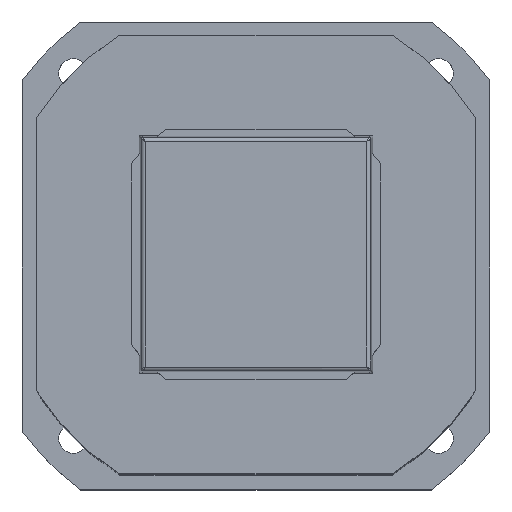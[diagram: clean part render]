
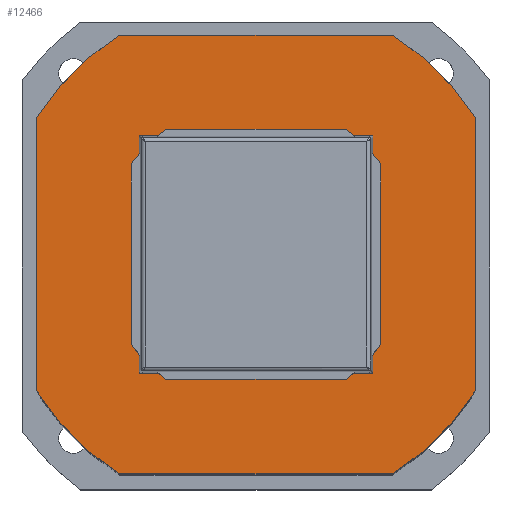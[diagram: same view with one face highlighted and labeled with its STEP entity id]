
A CAD part, top view. The second image highlights one B-rep face of the part: STEP entity #12466.
In plain terms, the highlighted planar face has unit normal (0, 0, 1).
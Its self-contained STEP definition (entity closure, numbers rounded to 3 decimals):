
#3436=CIRCLE('',#13706,132.5);
#3438=CIRCLE('',#13710,132.5);
#3440=CIRCLE('',#13714,132.5);
#3442=CIRCLE('',#13720,132.5);
#4076=VERTEX_POINT('',#17099);
#4077=VERTEX_POINT('',#17101);
#4079=VERTEX_POINT('',#17107);
#4081=VERTEX_POINT('',#17113);
#4083=VERTEX_POINT('',#17119);
#4085=VERTEX_POINT('',#17125);
#4087=VERTEX_POINT('',#17131);
#4089=VERTEX_POINT('',#17137);
#5164=LINE('',#17108,#14995);
#5168=LINE('',#17120,#14999);
#5172=LINE('',#17132,#15003);
#5174=LINE('',#17136,#15005);
#6107=EDGE_CURVE('',#4077,#4076,#3436,.T.);
#6111=EDGE_CURVE('',#4076,#4079,#5164,.T.);
#6114=EDGE_CURVE('',#4079,#4081,#3438,.T.);
#6117=EDGE_CURVE('',#4081,#4083,#5168,.T.);
#6120=EDGE_CURVE('',#4083,#4085,#3440,.T.);
#6123=EDGE_CURVE('',#4085,#4087,#5172,.T.);
#6125=EDGE_CURVE('',#4089,#4077,#5174,.T.);
#6128=EDGE_CURVE('',#4087,#4089,#3442,.T.);
#7926=ORIENTED_EDGE('',*,*,#6123,.T.);
#7927=ORIENTED_EDGE('',*,*,#6128,.T.);
#7928=ORIENTED_EDGE('',*,*,#6125,.T.);
#7929=ORIENTED_EDGE('',*,*,#6107,.T.);
#7930=ORIENTED_EDGE('',*,*,#6111,.T.);
#7931=ORIENTED_EDGE('',*,*,#6114,.T.);
#7932=ORIENTED_EDGE('',*,*,#6117,.T.);
#7933=ORIENTED_EDGE('',*,*,#6120,.T.);
#10743=EDGE_LOOP('',(#7926,#7927,#7928,#7929,#7930,#7931,#7932,#7933));
#11621=FACE_BOUND('',#10743,.T.);
#12466=ADVANCED_FACE('',(#11621),#15831,.T.);
#13706=AXIS2_PLACEMENT_3D('',#17100,#23309,#23310);
#13710=AXIS2_PLACEMENT_3D('',#17114,#23321,#23322);
#13714=AXIS2_PLACEMENT_3D('',#17126,#23332,#23333);
#13720=AXIS2_PLACEMENT_3D('',#17142,#23347,#23348);
#13721=AXIS2_PLACEMENT_3D('',#17143,#23349,$);
#14995=VECTOR('',#23315,1.);
#14999=VECTOR('',#23326,1.);
#15003=VECTOR('',#23337,1.);
#15005=VECTOR('',#23340,1.);
#15831=PLANE('',#13721);
#17099=CARTESIAN_POINT('',(-70.,-112.5,0.));
#17100=CARTESIAN_POINT('',(0.,0.,0.));
#17101=CARTESIAN_POINT('',(-112.5,-70.,0.));
#17107=CARTESIAN_POINT('',(70.,-112.5,0.));
#17108=CARTESIAN_POINT('',(-70.,-112.5,0.));
#17113=CARTESIAN_POINT('',(112.5,-70.,0.));
#17114=CARTESIAN_POINT('',(0.,0.,0.));
#17119=CARTESIAN_POINT('',(112.5,70.,0.));
#17120=CARTESIAN_POINT('',(112.5,-70.,0.));
#17125=CARTESIAN_POINT('',(70.,112.5,0.));
#17126=CARTESIAN_POINT('',(0.,0.,0.));
#17131=CARTESIAN_POINT('',(-70.,112.5,0.));
#17132=CARTESIAN_POINT('',(70.,112.5,0.));
#17136=CARTESIAN_POINT('',(-112.5,70.,0.));
#17137=CARTESIAN_POINT('',(-112.5,70.,0.));
#17142=CARTESIAN_POINT('',(0.,0.,0.));
#17143=CARTESIAN_POINT('',(0.,0.,0.));
#23309=DIRECTION('',(0.,0.,1.));
#23310=DIRECTION('',(132.5,0.,0.));
#23315=DIRECTION('',(1.,0.,0.));
#23321=DIRECTION('',(0.,0.,1.));
#23322=DIRECTION('',(132.5,0.,0.));
#23326=DIRECTION('',(0.,1.,0.));
#23332=DIRECTION('',(0.,0.,1.));
#23333=DIRECTION('',(132.5,0.,0.));
#23337=DIRECTION('',(-1.,0.,0.));
#23340=DIRECTION('',(0.,-1.,0.));
#23347=DIRECTION('',(0.,0.,1.));
#23348=DIRECTION('',(132.5,0.,0.));
#23349=DIRECTION('',(0.,0.,1.));
